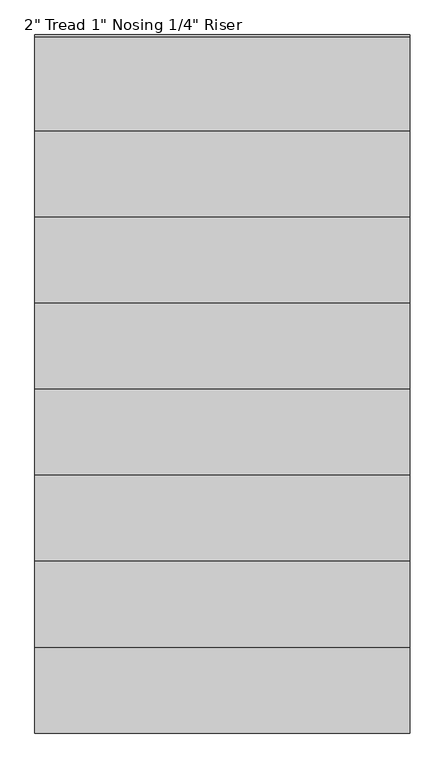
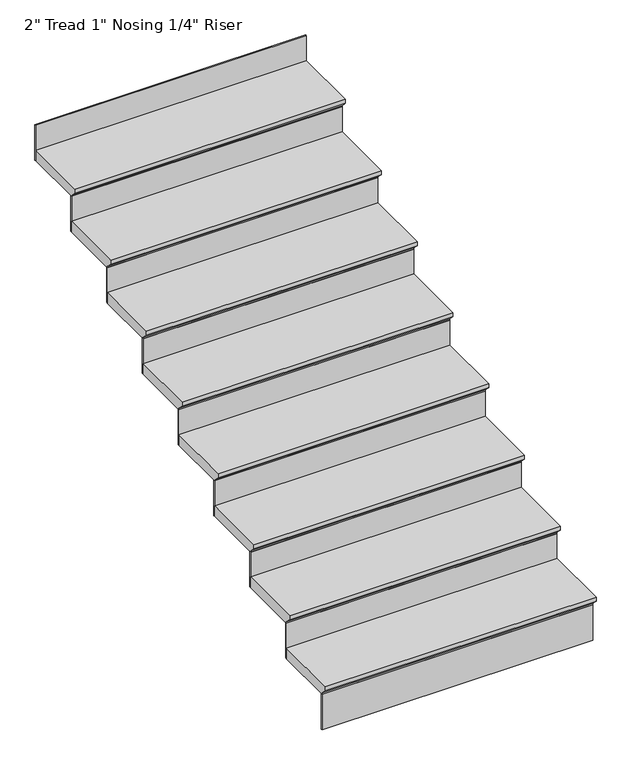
"""IFC4 building model written with IfcOpenShell, lengths in millimetres: stair flight geometry."""

from ifc_helpers import new_model, si_unit, frame, origin, place, context, project, spatial, polyline, outline, extrude, source, transform, mapped, element, save


def stair_flight_0bc00e2c(model_context):
    return source(origin(), model_context, "Body", "SweptSolid", [
        extrude(outline(polyline([(347.6775352, 1693.3333333), (652.4775352, 1693.3333333), (652.4775352, 1642.5333333), (373.0775352, 1642.5333333), (373.0775352, 1648.8833333), (347.6775352, 1674.2833333), (347.6775352, 1693.3333333)])), frame((-3698.517382, 0.0, 0.0), z_axis=(1.0, 0.0, 0.0), x_axis=(0.0, 1.0, 0.0)), (0.0, 0.0, 1.0), 1219.2),
        extrude(outline(polyline([(-2479.317382, 379.4275352), (-2479.317382, 373.0775352), (-3698.517382, 373.0775352), (-3698.517382, 379.4275352), (-2479.317382, 379.4275352)])), frame((0.0, 0.0, 1473.2), z_axis=(0.0, 0.0, 1.0), x_axis=(1.0, 0.0, 0.0)), (0.0, 0.0, 1.0), 169.3333333),
        extrude(outline(polyline([(-2479.317382, 658.8275352), (-2479.317382, 652.4775352), (-3698.517382, 652.4775352), (-3698.517382, 658.8275352), (-2479.317382, 658.8275352)])), frame((0.0, 0.0, 1642.5333333), z_axis=(0.0, 0.0, 1.0), x_axis=(1.0, 0.0, 0.0)), (0.0, 0.0, 1.0), 169.3333333),
        extrude(outline(polyline([(627.0775352, 1862.6666667), (931.8775352, 1862.6666667), (931.8775352, 1811.8666667), (652.4775352, 1811.8666667), (652.4775352, 1818.2166667), (627.0775352, 1843.6166667), (627.0775352, 1862.6666667)])), frame((-3698.517382, 0.0, 0.0), z_axis=(1.0, 0.0, 0.0), x_axis=(0.0, 1.0, 0.0)), (0.0, 0.0, 1.0), 1219.2),
        extrude(outline(polyline([(-2479.317382, 938.2275352), (-2479.317382, 931.8775352), (-3698.517382, 931.8775352), (-3698.517382, 938.2275352), (-2479.317382, 938.2275352)])), frame((0.0, 0.0, 1811.8666667), z_axis=(0.0, 0.0, 1.0), x_axis=(1.0, 0.0, 0.0)), (0.0, 0.0, 1.0), 169.3333333),
        extrude(outline(polyline([(906.4775352, 2032.0), (1211.2775352, 2032.0), (1211.2775352, 1981.2), (931.8775352, 1981.2), (931.8775352, 1987.55), (906.4775352, 2012.95), (906.4775352, 2032.0)])), frame((-3698.517382, 0.0, 0.0), z_axis=(1.0, 0.0, 0.0), x_axis=(0.0, 1.0, 0.0)), (0.0, 0.0, 1.0), 1219.2),
        extrude(outline(polyline([(-2479.317382, 1217.6275352), (-2479.317382, 1211.2775352), (-3698.517382, 1211.2775352), (-3698.517382, 1217.6275352), (-2479.317382, 1217.6275352)])), frame((0.0, 0.0, 1981.2), z_axis=(0.0, 0.0, 1.0), x_axis=(1.0, 0.0, 0.0)), (0.0, 0.0, 1.0), 169.3333333),
        extrude(outline(polyline([(1185.8775352, 2201.3333333), (1490.6775352, 2201.3333333), (1490.6775352, 2150.5333333), (1211.2775352, 2150.5333333), (1211.2775352, 2156.8833333), (1185.8775352, 2182.2833333), (1185.8775352, 2201.3333333)])), frame((-3698.517382, 0.0, 0.0), z_axis=(1.0, 0.0, 0.0), x_axis=(0.0, 1.0, 0.0)), (0.0, 0.0, 1.0), 1219.2),
        extrude(outline(polyline([(-2479.317382, 1497.0275352), (-2479.317382, 1490.6775352), (-3698.517382, 1490.6775352), (-3698.517382, 1497.0275352), (-2479.317382, 1497.0275352)])), frame((0.0, 0.0, 2150.5333333), z_axis=(0.0, 0.0, 1.0), x_axis=(1.0, 0.0, 0.0)), (0.0, 0.0, 1.0), 169.3333333),
        extrude(outline(polyline([(1465.2775352, 2370.6666667), (1770.0775352, 2370.6666667), (1770.0775352, 2319.8666667), (1490.6775352, 2319.8666667), (1490.6775352, 2326.2166667), (1465.2775352, 2351.6166667), (1465.2775352, 2370.6666667)])), frame((-3698.517382, 0.0, 0.0), z_axis=(1.0, 0.0, 0.0), x_axis=(0.0, 1.0, 0.0)), (0.0, 0.0, 1.0), 1219.2),
        extrude(outline(polyline([(-2479.317382, 1776.4275352), (-2479.317382, 1770.0775352), (-3698.517382, 1770.0775352), (-3698.517382, 1776.4275352), (-2479.317382, 1776.4275352)])), frame((0.0, 0.0, 2319.8666667), z_axis=(0.0, 0.0, 1.0), x_axis=(1.0, 0.0, 0.0)), (0.0, 0.0, 1.0), 169.3333333),
        extrude(outline(polyline([(1744.6775352, 2540.0), (2049.4775352, 2540.0), (2049.4775352, 2489.2), (1770.0775352, 2489.2), (1770.0775352, 2495.55), (1744.6775352, 2520.95), (1744.6775352, 2540.0)])), frame((-3698.517382, 0.0, 0.0), z_axis=(1.0, 0.0, 0.0), x_axis=(0.0, 1.0, 0.0)), (0.0, 0.0, 1.0), 1219.2),
        extrude(outline(polyline([(-2479.317382, 2055.8275352), (-2479.317382, 2049.4775352), (-3698.517382, 2049.4775352), (-3698.517382, 2055.8275352), (-2479.317382, 2055.8275352)])), frame((0.0, 0.0, 2489.2), z_axis=(0.0, 0.0, 1.0), x_axis=(1.0, 0.0, 0.0)), (0.0, 0.0, 1.0), 169.3333333),
        extrude(outline(polyline([(2024.0775352, 2709.3333333), (2328.8775352, 2709.3333333), (2328.8775352, 2658.5333333), (2049.4775352, 2658.5333333), (2049.4775352, 2664.8833333), (2024.0775352, 2690.2833333), (2024.0775352, 2709.3333333)])), frame((-3698.517382, 0.0, 0.0), z_axis=(1.0, 0.0, 0.0), x_axis=(0.0, 1.0, 0.0)), (0.0, 0.0, 1.0), 1219.2),
        extrude(outline(polyline([(-2479.317382, 2335.2275352), (-2479.317382, 2328.8775352), (-3698.517382, 2328.8775352), (-3698.517382, 2335.2275352), (-2479.317382, 2335.2275352)])), frame((0.0, 0.0, 2658.5333333), z_axis=(0.0, 0.0, 1.0), x_axis=(1.0, 0.0, 0.0)), (0.0, 0.0, 1.0), 169.3333333),
        extrude(outline(polyline([(-2479.317382, 2614.6275352), (-2479.317382, 2608.2775352), (-3698.517382, 2608.2775352), (-3698.517382, 2614.6275352), (-2479.317382, 2614.6275352)])), frame((0.0, 0.0, 2827.8666667), z_axis=(0.0, 0.0, 1.0), x_axis=(1.0, 0.0, 0.0)), (0.0, 0.0, 1.0), 169.3333333),
        extrude(outline(polyline([(2303.4775352, 2878.6666667), (2608.2775352, 2878.6666667), (2608.2775352, 2827.8666667), (2328.8775352, 2827.8666667), (2328.8775352, 2834.2166667), (2303.4775352, 2859.6166667), (2303.4775352, 2878.6666667)])), frame((-3698.517382, 0.0, 0.0), z_axis=(1.0, 0.0, 0.0), x_axis=(0.0, 1.0, 0.0)), (0.0, 0.0, 1.0), 1219.2),
    ])


if __name__ == "__main__":
    model = new_model("IFC4")
    model_context = context("Model", 3, world=origin())
    ifc_project = project(units=[si_unit("LENGTHUNIT", "METRE", prefix="MILLI")], contexts=[model_context])
    site = spatial("IfcSite", under=ifc_project)
    building = spatial("IfcBuilding", under=site)
    placement = place(None, origin())
    stair_flight_shape = stair_flight_0bc00e2c(model_context)
    element("IfcStairFlight", 1, ObjectType="2\" Tread 1\" Nosing 1/4\" Riser", at=placement, inside=building, context=model_context, shape_type="MappedRepresentation", body=[
        mapped(stair_flight_shape, transform((0.0, 0.0, 0.0), x_axis=(1.0, 0.0, 0.0), y_axis=(0.0, 1.0, 0.0), z_axis=(0.0, 0.0, 1.0))),
    ])
    save(model, "model.ifc")
